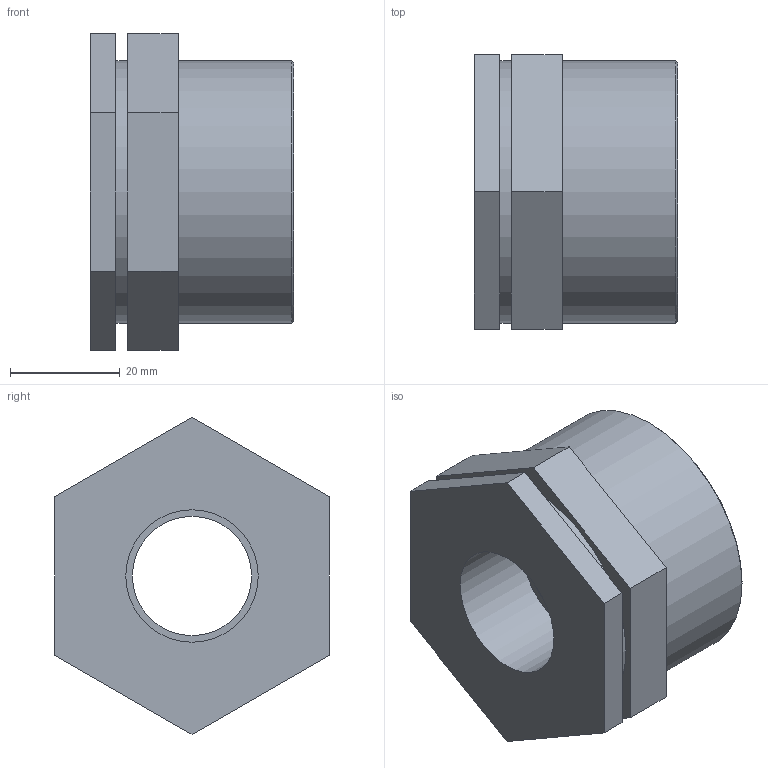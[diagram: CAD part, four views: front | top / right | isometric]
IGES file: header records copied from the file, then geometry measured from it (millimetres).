
Global section: file name: 050207015007_0502070150070A.ipt; native system: Autodesk Inventor 2015; preprocessor: unknown; author: KIM; date: 20170618.093131; units: millimetre
Bounding box: 37 x 50 x 57.73 mm (x, y, z)
Volume: 31460.9 mm3; surface area: 15231.7 mm2
Topology: 1 solids, 1 shells, 28 faces, 66 edges, 46 vertices
Faces by surface type: plane 20, revolution 4, cylinder 3, cone 1
Full cylindrical faces by diameter (mm): 28.94 x1, 47.803 x2
